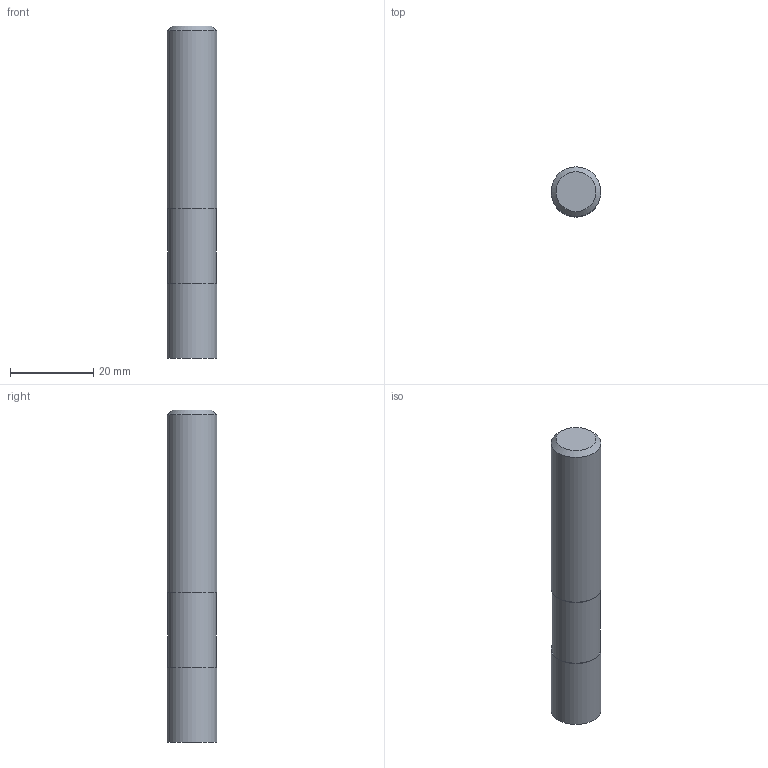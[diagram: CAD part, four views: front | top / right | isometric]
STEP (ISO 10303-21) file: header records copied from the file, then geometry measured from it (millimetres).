
FILE_DESCRIPTION((''),'2;1');
FILE_NAME('C:\Users\nsx150\AppData\Local\Temp\Mastercam 2021\EUJSUNXURU\TEMP.step','2021-04-22T10:30:30',(''),(''),'STEP Write','Mastercam 2021 ... CNC Software, Inc.','');
FILE_SCHEMA(('AUTOMOTIVE_DESIGN'));
Length unit declared in the file: millimetre
Products named in the file (1): None
Bounding box: 12 x 12 x 80 mm (x, y, z)
Volume: 8955.2 mm3; surface area: 3428.6 mm2
Topology: 2 solids, 2 shells, 9 faces, 11 edges, 7 vertices
Faces by surface type: plane 5, cylinder 3, cone 1
Full cylindrical faces by diameter (mm): 11.8 x1, 12 x2
Entity records: 211 total; most frequent: DIRECTION 36, CARTESIAN_POINT 25, AXIS2_PLACEMENT_3D 18, ORIENTED_EDGE 14, EDGE_LOOP 14, STYLED_ITEM 12, ADVANCED_FACE 9, FACE_BOUND 8
